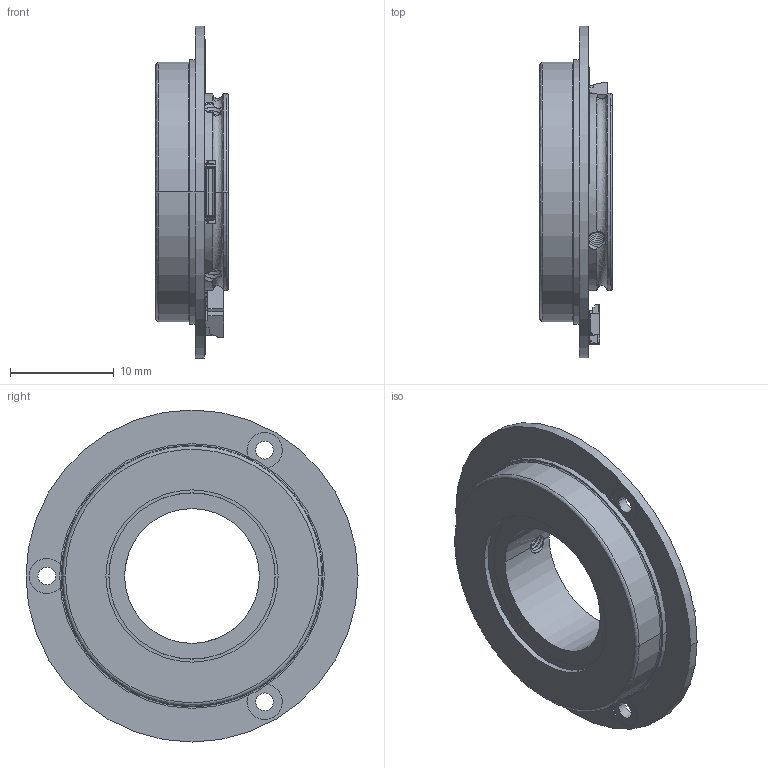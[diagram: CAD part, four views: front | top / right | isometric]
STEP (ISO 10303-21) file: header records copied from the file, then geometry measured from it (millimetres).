
FILE_DESCRIPTION (( 'STEP AP214' ), '1' );
FILE_NAME ('MBS-13-32¸üÐÂ.STEP', '2024-07-15T07:27:45', ( '' ), ( '' ), 'SwSTEP 2.0', 'SolidWorks 2016', '' );
FILE_SCHEMA (( 'AUTOMOTIVE_DESIGN' ));
Length unit declared in the file: millimetre
Products named in the file (1): MBS-13-32載陔
Bounding box: 7.01 x 32 x 32 mm (x, y, z)
Volume: 1605.8 mm3; surface area: 3927.5 mm2
Topology: 5 solids, 31 shells, 786 faces, 2054 edges, 1356 vertices
Faces by surface type: plane 550, bspline 161, cylinder 69, cone 6
Entity records: 53544 total; most frequent: CARTESIAN_POINT 32255, ORIENTED_EDGE 4106, DIRECTION 3088, EDGE_CURVE 2053, LINE 1530, VECTOR 1530, VERTEX_POINT 1356, EDGE_LOOP 859
